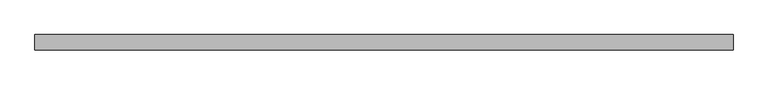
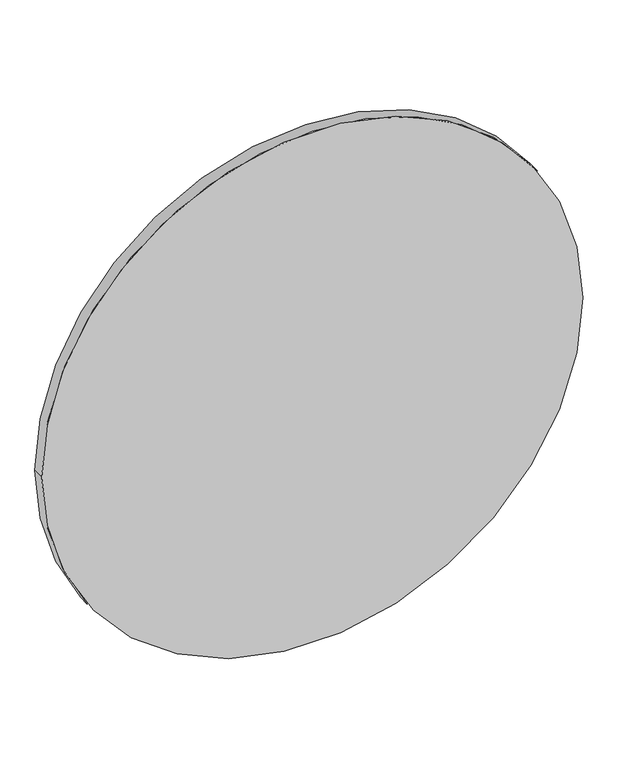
"""IFC4 building model written with IfcOpenShell, lengths in millimetres: proxy geometry, CAMBRIDGE^TABLE 1_60 ROUND-TOP."""

import ifcopenshell
import ifcopenshell.guid

model = None  # the IFC model being written
_history = None  # IfcOwnerHistory: only IFC2X3 demands one
_inside = {}  # id of a spatial element -> (the spatial element, [elements in it])
_under = {}  # id of a project, library or spatial element -> (it, [spatial elements below it])
_declared = {}  # id of a project -> (the project, [libraries it declares])
_typed = {}  # id of a type object -> (the type object, [elements of that type])
_made_of = {}  # id of a material, layer set ... -> (it, [elements and type objects made of it])


def new_model(schema):
    """Start an empty IFC model of exactly this schema.

    Asked for "IFC4X3", IfcOpenShell would pick the latest addendum, in which some entities
    have other attributes; the version numbers below select the first issue.
    IFC2X3 requires an IfcOwnerHistory on every rooted entity: one is made here for all.
    """
    global model, _history
    if schema == "IFC4X3":
        model = ifcopenshell.file(schema_version=(4, 3, 0, 0))
    else:
        model = ifcopenshell.file(schema=schema)
    _inside.clear()
    _under.clear()
    _declared.clear()
    _typed.clear()
    _made_of.clear()
    _history = None
    if model.schema == "IFC2X3":
        org = make("IfcOrganization", Name="unknown")
        user = make(
            "IfcPersonAndOrganization",
            ThePerson=make("IfcPerson", FamilyName="unknown"),
            TheOrganization=org,
        )
        app = make(
            "IfcApplication",
            ApplicationDeveloper=org,
            Version="unknown",
            ApplicationFullName="unknown",
            ApplicationIdentifier="unknown",
        )
        _history = make(
            "IfcOwnerHistory",
            OwningUser=user,
            OwningApplication=app,
            ChangeAction="ADDED",
            CreationDate=0,
        )
    return model


def make(cls, **values):
    """One entity of the class cls with the attributes given. An attribute that is None is left unset."""
    return model.create_entity(
        cls, **{name: value for name, value in values.items() if value is not None}
    )


def rooted(cls, **values):
    """An entity with a GlobalId (a new one), such as an element, a storey or a relation."""
    return make(cls, GlobalId=ifcopenshell.guid.new(), OwnerHistory=_history, **values)


def si_unit(unit_type, name, prefix=None):
    """IfcSIUnit, for example si_unit("LENGTHUNIT", "METRE", prefix="MILLI")."""
    return make("IfcSIUnit", UnitType=unit_type, Prefix=prefix, Name=name)


def assignment(units):
    """IfcUnitAssignment: the units of a project."""
    return None if units is None else make("IfcUnitAssignment", Units=units)


def point(xyz):
    """IfcCartesianPoint."""
    return None if xyz is None else make("IfcCartesianPoint", Coordinates=xyz)


def direction(xyz):
    """IfcDirection."""
    return None if xyz is None else make("IfcDirection", DirectionRatios=xyz)


def frame(location, z_axis=None, x_axis=None):
    """IfcAxis2Placement3D, a coordinate frame: its origin and axes. An axis left out is left unset."""
    return make(
        "IfcAxis2Placement3D",
        Location=point(location),
        Axis=direction(z_axis),
        RefDirection=direction(x_axis),
    )


def frame_2d(location, x_axis=None):
    """IfcAxis2Placement2D, a coordinate frame in the plane: its origin and x axis."""
    return make(
        "IfcAxis2Placement2D", Location=point(location), RefDirection=direction(x_axis)
    )


def origin():
    """The frame at (0, 0, 0) with its axes left unset."""
    return frame((0.0, 0.0, 0.0))


def origin_2d():
    """The frame at (0, 0) in the plane with its x axis left unset."""
    return frame_2d((0.0, 0.0))


def place(relative_to, where):
    """IfcLocalPlacement: puts the frame where relative to a parent placement (None: the world)."""
    return make(
        "IfcLocalPlacement", PlacementRelTo=relative_to, RelativePlacement=where
    )


def context(
    kind, dimensions, precision=None, world=None, true_north=None, identifier=None
):
    """IfcGeometricRepresentationContext, for example the 3D "Model" context."""
    return make(
        "IfcGeometricRepresentationContext",
        ContextIdentifier=identifier,
        ContextType=kind,
        CoordinateSpaceDimension=dimensions,
        Precision=precision,
        WorldCoordinateSystem=world,
        TrueNorth=true_north,
    )


def project(units=None, contexts=None):
    """IfcProject with its units and contexts."""
    return rooted(
        "IfcProject",
        Name="project",
        RepresentationContexts=contexts,
        UnitsInContext=assignment(units),
    )


def spatial(cls, under=None, at=None, **own):
    """A site, building, storey or space (cls), placed at a placement, below another one or the project."""
    s = rooted(cls, ObjectPlacement=at, **own)
    if under is not None:
        _under.setdefault(under.id(), (under, []))[1].append(s)
    return s


def circle_curve(where, radius):
    """IfcCircle in the frame where."""
    return make("IfcCircle", Position=where, Radius=radius)


def trimmed(basis, trim1, trim2, sense, master):
    """IfcTrimmedCurve: the piece of a basis curve between two trims."""
    return make(
        "IfcTrimmedCurve",
        BasisCurve=basis,
        Trim1=trim1,
        Trim2=trim2,
        SenseAgreement=sense,
        MasterRepresentation=master,
    )


def segment(curve, same_sense, transition):
    """IfcCompositeCurveSegment."""
    return make(
        "IfcCompositeCurveSegment",
        Transition=transition,
        SameSense=same_sense,
        ParentCurve=curve,
    )


def composite_curve(segments, self_intersect=None):
    """IfcCompositeCurve: segments joined end to end."""
    return make("IfcCompositeCurve", Segments=segments, SelfIntersect=self_intersect)


def outline(outer, holes=None, kind="AREA"):
    """IfcArbitraryClosedProfileDef: a profile drawn as a closed curve; with holes, ...WithVoids."""
    if holes is None:
        return make("IfcArbitraryClosedProfileDef", ProfileType=kind, OuterCurve=outer)
    return make(
        "IfcArbitraryProfileDefWithVoids",
        ProfileType=kind,
        OuterCurve=outer,
        InnerCurves=holes,
    )


def extrude(swept, where, along, depth):
    """IfcExtrudedAreaSolid: the profile swept, set in the frame where, extruded along a direction by depth."""
    return make(
        "IfcExtrudedAreaSolid",
        SweptArea=swept,
        Position=where,
        ExtrudedDirection=direction(along),
        Depth=depth,
    )


def shape(context_of_items, identifier, shape_type, items):
    """IfcShapeRepresentation: the items that make up one representation, for example the "Body"."""
    return make(
        "IfcShapeRepresentation",
        ContextOfItems=context_of_items,
        RepresentationIdentifier=identifier,
        RepresentationType=shape_type,
        Items=items,
    )


def source(mapping_origin, context_of_items, identifier, shape_type, items):
    """IfcRepresentationMap: a shape defined once, which mapped items show again and again."""
    return make(
        "IfcRepresentationMap",
        MappingOrigin=mapping_origin,
        MappedRepresentation=shape(context_of_items, identifier, shape_type, items),
    )


def transform(
    local_origin,
    x_axis=None,
    y_axis=None,
    z_axis=None,
    scale=None,
    scale2=None,
    scale3=None,
    uniform=True,
):
    """IfcCartesianTransformationOperator3D, or its non-uniform kind. x_axis, y_axis, z_axis: its Axis1, 2, 3."""
    if uniform:
        return make(
            "IfcCartesianTransformationOperator3D",
            Axis1=direction(x_axis),
            Axis2=direction(y_axis),
            LocalOrigin=point(local_origin),
            Scale=scale,
            Axis3=direction(z_axis),
        )
    return make(
        "IfcCartesianTransformationOperator3DnonUniform",
        Axis1=direction(x_axis),
        Axis2=direction(y_axis),
        LocalOrigin=point(local_origin),
        Scale=scale,
        Axis3=direction(z_axis),
        Scale2=scale2,
        Scale3=scale3,
    )


def mapped(mapping_source, mapping_target):
    """IfcMappedItem: shows the shape of a source again, moved by a transform."""
    return make(
        "IfcMappedItem", MappingSource=mapping_source, MappingTarget=mapping_target
    )


def made_of(thing, what):
    """Note that an element or type object is made of a material, layer set ...; save() writes the relation."""
    if what is not None:
        _made_of.setdefault(what.id(), (what, []))[1].append(thing)
    return thing


def element(
    cls,
    number,
    at=None,
    inside=None,
    cuts=None,
    type_object=None,
    material=None,
    context=None,
    identifier="Body",
    shape_type=None,
    held_by="IfcProductDefinitionShape",
    body=None,
    shapes=None,
    **own,
):
    """One element of the class cls, such as IfcWall. Its Tag is "e" and its number.

    at: its placement. inside: the storey or other place that contains it. cuts: it is an
    opening in that element (IfcRelVoidsElement). A single representation is given by context,
    identifier, shape_type and body (its items); several are given by shapes. held_by: the class
    of the entity that holds the representations. save() writes the other relations.
    """
    e = rooted(cls, Tag="e%d" % number, ObjectPlacement=at, **own)
    if body is not None:
        shapes = [shape(context, identifier, shape_type, body)]
    if shapes is not None:
        e.Representation = make(held_by, Representations=shapes)
    if inside is not None:
        _inside.setdefault(inside.id(), (inside, []))[1].append(e)
    if cuts is not None:
        rooted(
            "IfcRelVoidsElement", RelatingBuildingElement=cuts, RelatedOpeningElement=e
        )
    if type_object is not None:
        _typed.setdefault(type_object.id(), (type_object, []))[1].append(e)
    return made_of(e, material)


def aggregate(whole, parts):
    """IfcRelAggregates: a whole, such as a stair, and the parts it consists of."""
    return rooted("IfcRelAggregates", RelatingObject=whole, RelatedObjects=parts)


def save(model, path):
    """Write the relations noted so far, then the file.

    IfcRelAggregates (storeys below a building ...), IfcRelContainedInSpatialStructure (elements
    in a storey), IfcRelDefinesByType, IfcRelAssociatesMaterial and IfcRelDeclares: one each for
    every whole, place, type object, material and project.
    """
    for whole, parts in _under.values():
        aggregate(whole, parts)
    for where, things in _inside.values():
        rooted(
            "IfcRelContainedInSpatialStructure",
            RelatedElements=things,
            RelatingStructure=where,
        )
    for kind, things in _typed.values():
        rooted("IfcRelDefinesByType", RelatedObjects=things, RelatingType=kind)
    for what, things in _made_of.values():
        rooted("IfcRelAssociatesMaterial", RelatedObjects=things, RelatingMaterial=what)
    for by, libraries in _declared.values():
        rooted("IfcRelDeclares", RelatingContext=by, RelatedDefinitions=libraries)
    model.write(path)


def generic_models_453faee4(model_context):
    return source(origin(), model_context, "Body", "SweptSolid", [
        extrude(outline(composite_curve([segment(trimmed(circle_curve(origin_2d(), 717.55), [point((0.0, 717.55))], [point((0.0, -717.55))], False, "CARTESIAN"), True, "CONTINUOUS"), segment(trimmed(circle_curve(origin_2d(), 717.55), [point((0.0, -717.55))], [point((0.0, 717.55))], False, "CARTESIAN"), True, "CONTINUOUS")], self_intersect=False)), frame((0.0, 0.0, 0.0), z_axis=(0.0, 1.0, 0.0), x_axis=(0.0, 0.0, 1.0)), (0.0, 0.0, 1.0), 31.75),
    ])


if __name__ == "__main__":
    model = new_model("IFC4")
    model_context = context("Model", 3, world=origin())
    ifc_project = project(units=[si_unit("LENGTHUNIT", "METRE", prefix="MILLI")], contexts=[model_context])
    site = spatial("IfcSite", under=ifc_project)
    building = spatial("IfcBuilding", under=site)
    placement = place(None, origin())
    generic_models_shape = generic_models_453faee4(model_context)
    element("IfcBuildingElementProxy", 1, Name="CAMBRIDGE^TABLE 1_60 ROUND-TOP", ObjectType="CAMBRIDGE^TABLE 1_60 ROUND-TOP", at=placement, inside=building, context=model_context, shape_type="MappedRepresentation", body=[
        mapped(generic_models_shape, transform((0.0, 0.0, 0.0), x_axis=(1.0, 0.0, 0.0), y_axis=(0.0, 1.0, 0.0), z_axis=(0.0, 0.0, 1.0))),
    ])
    save(model, "model.ifc")
